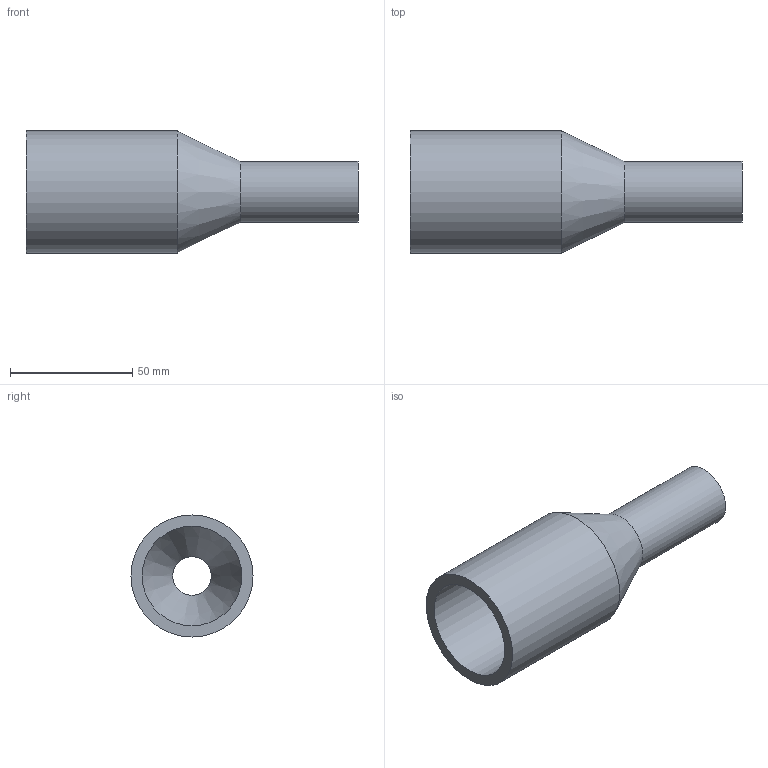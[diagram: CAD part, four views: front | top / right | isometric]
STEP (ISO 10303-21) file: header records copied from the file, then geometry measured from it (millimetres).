
FILE_DESCRIPTION(('Beschreibung'),'1');
FILE_NAME('V:/Ziel/25.91.03.103_SDR_11_PE100_050_025.STP', '2014-09-15T06:24:21',('Author'), ('Organization'), 'KCM Version 1.1.794.0', 'Kubotek KeyCreator', 'Authorization');
FILE_SCHEMA(('CONFIG_CONTROL_DESIGN'));
Length unit declared in the file: millimetre
Bounding box: 136 x 50 x 50 mm (x, y, z)
Volume: 68355.1 mm3; surface area: 30670.5 mm2
Topology: 1 solids, 1 shells, 8 faces, 22 edges, 24 vertices
Faces by surface type: cylinder 4, cone 2, plane 2
Full cylindrical faces by diameter (mm): 15.8 x1, 25 x1, 40.8 x1, 50 x1
Entity records: 321 total; most frequent: DIRECTION 48, CARTESIAN_POINT 39, ORIENTED_EDGE 28, AXIS2_PLACEMENT_3D 17, EDGE_CURVE 14, VECTOR 14, LINE 14, EDGE_LOOP 10
